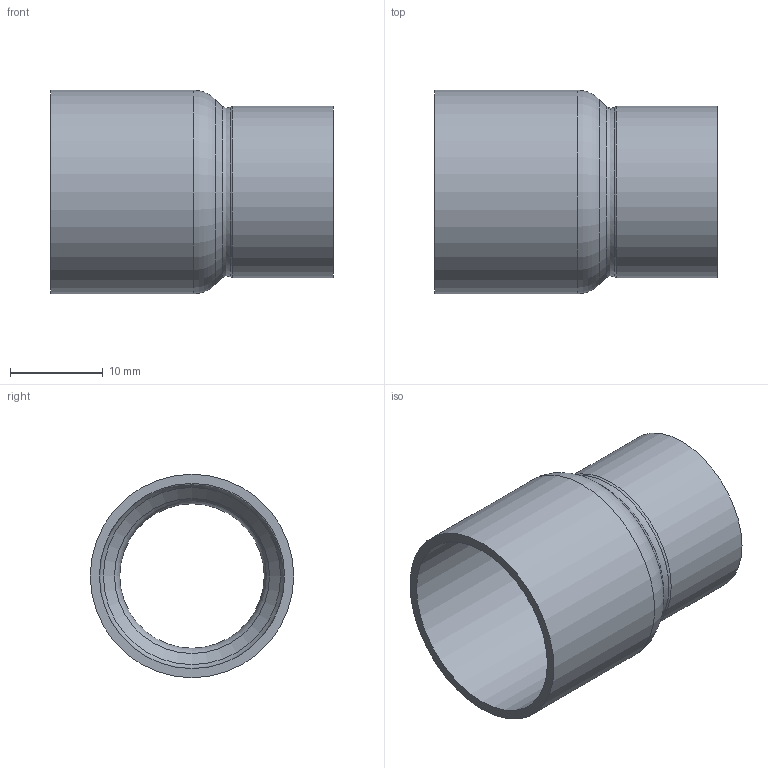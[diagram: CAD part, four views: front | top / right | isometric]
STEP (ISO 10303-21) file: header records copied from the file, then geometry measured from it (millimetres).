
FILE_DESCRIPTION((''),'2;1');
FILE_NAME('G:\SANHA-TERNAT\Technik\Deckel\UUU\Producttek\5000serie\152432012\152402016(0).stp','2014-02-07T15:16:15',('vdvijverd'),(''),'Autodesk Inventor 2009','Autodesk Inventor 2009','');
FILE_SCHEMA(('AUTOMOTIVE_DESIGN { 1 0 10303 214 1 1 1 1 }'));
Length unit declared in the file: millimetre
Products named in the file (1): 152402016(0)
Bounding box: 30.49 x 22 x 22 mm (x, y, z)
Volume: 2098 mm3; surface area: 3928.2 mm2
Topology: 1 solids, 1 shells, 14 faces, 26 edges, 14 vertices
Faces by surface type: cylinder 4, torus 3, bspline 3, cone 2, plane 2
Full cylindrical faces by diameter (mm): 16 x1, 18.5 x1, 20 x1, 22 x1
Entity records: 452 total; most frequent: CARTESIAN_POINT 193, DIRECTION 52, ORIENTED_EDGE 28, EDGE_LOOP 28, AXIS2_PLACEMENT_3D 26, VERTEX_POINT 14, CIRCLE 14, EDGE_CURVE 14
